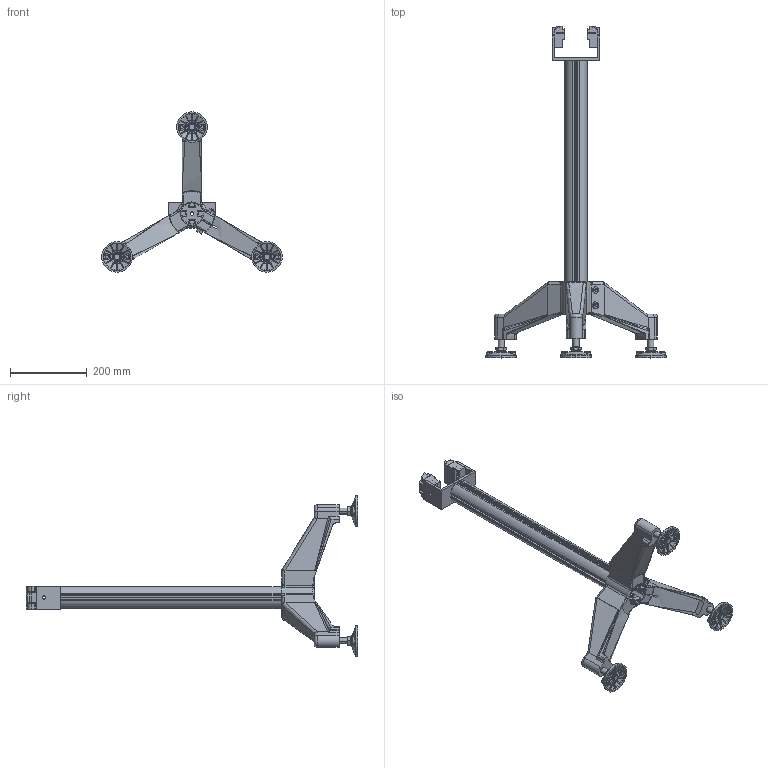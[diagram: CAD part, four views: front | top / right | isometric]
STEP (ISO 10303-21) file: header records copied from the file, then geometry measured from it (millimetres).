
FILE_DESCRIPTION (( 'STEP AP214' ), '1' );
FILE_NAME ('R1-P3.STEP', '2011-04-13T11:40:47', ( '.' ), ( '' ), 'SwSTEP 2.0', 'SolidWorks 2010', '' );
FILE_SCHEMA (( 'AUTOMOTIVE_DESIGN' ));
Length unit declared in the file: millimetre
Products named in the file (9): U125-63-ETRIER; R1SL1-21.5M; 331-3-NU; TUA-60-4R_0662; 331-80; Tige fileté; Semelle; Écrou M16_Default; R1-P3
Assembly tree (11 placements, depth 3):
  R1-P3
    331-80  x3
      Écrou M16_Default
      Tige fileté
      Semelle
    R1SL1-21.5M  x2
    U125-63-ETRIER
    331-3-NU
    TUA-60-4R_0662
Bounding box: 470.58 x 865.2 x 418.25 mm (x, y, z)
Volume: 2905545.5 mm3; surface area: 725204.5 mm2
Topology: 14 solids, 14 shells, 1293 faces, 3413 edges, 2168 vertices
Faces by surface type: plane 476, cylinder 300, torus 166, cone 165, bspline 132, sphere 54
Entity records: 29432 total; most frequent: CARTESIAN_POINT 9266, ORIENTED_EDGE 3866, DIRECTION 3504, EDGE_CURVE 1933, AXIS2_PLACEMENT_3D 1322, VERTEX_POINT 1230, LINE 860, VECTOR 860
